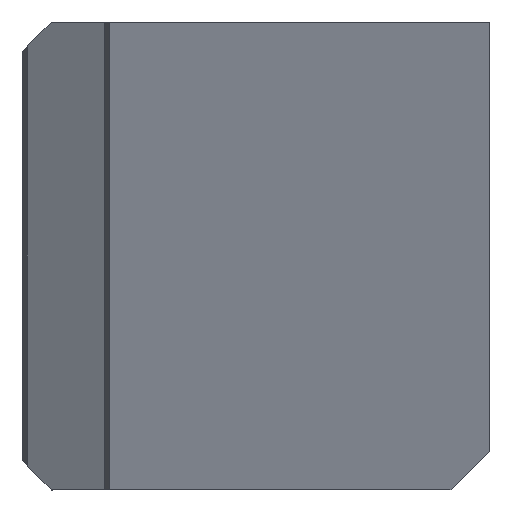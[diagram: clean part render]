
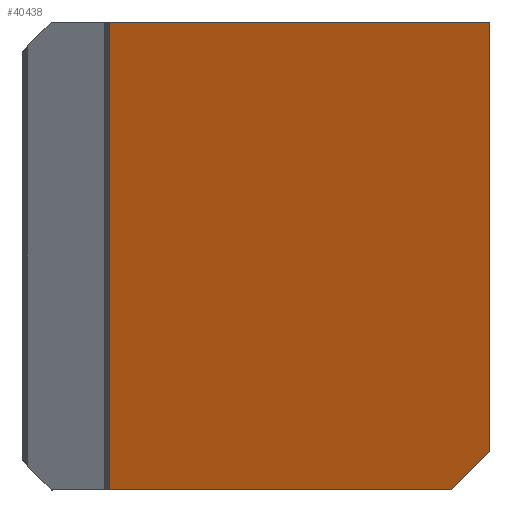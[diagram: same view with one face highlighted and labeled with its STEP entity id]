
A CAD part, left-side view. The second image highlights one B-rep face of the part: STEP entity #40438.
In plain terms, the highlighted planar face has unit normal (-0.943, 0, -0.334).
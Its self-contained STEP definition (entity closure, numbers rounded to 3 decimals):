
#492 = CARTESIAN_POINT ( 'NONE',  ( 0., 24., 0. ) ) ;
#919 = DIRECTION ( 'NONE',  ( -0.942, 0., -0.334 ) ) ;
#1106 = VECTOR ( 'NONE', #72730, 1000. ) ;
#6916 = DIRECTION ( 'NONE',  ( 0., -1., 0. ) ) ;
#8937 = EDGE_LOOP ( 'NONE', ( #74145, #29989, #65186, #74253, #39417 ) ) ;
#10180 = CARTESIAN_POINT ( 'NONE',  ( 8.512, 0., -24. ) ) ;
#10226 = DIRECTION ( 'NONE',  ( -0.243, -0.686, 0.686 ) ) ;
#13474 = AXIS2_PLACEMENT_3D ( 'NONE', #49924, #919, #37498 ) ;
#25840 = CARTESIAN_POINT ( 'NONE',  ( 8.512, 19.5, -24. ) ) ;
#29989 = ORIENTED_EDGE ( 'NONE', *, *, #70328, .T. ) ;
#30882 = CARTESIAN_POINT ( 'NONE',  ( 8.512, 24., -24. ) ) ;
#34126 = VERTEX_POINT ( 'NONE', #59926 ) ;
#35505 = CARTESIAN_POINT ( 'NONE',  ( 3.671, -11.651, -10.349 ) ) ;
#35600 = VECTOR ( 'NONE', #66241, 1000. ) ;
#36712 = LINE ( 'NONE', #37099, #61348 ) ;
#37094 = PLANE ( 'NONE',  #13474 ) ;
#37099 = CARTESIAN_POINT ( 'NONE',  ( 0., 19.5, 0. ) ) ;
#37498 = DIRECTION ( 'NONE',  ( -0.334, 0., 0.942 ) ) ;
#39417 = ORIENTED_EDGE ( 'NONE', *, *, #70937, .F. ) ;
#40438 = ADVANCED_FACE ( 'NONE', ( #44287 ), #37094, .T. ) ;
#44287 = FACE_OUTER_BOUND ( 'NONE', #8937, .T. ) ;
#48532 = EDGE_CURVE ( 'NONE', #50846, #34126, #66428, .T. ) ;
#49924 = CARTESIAN_POINT ( 'NONE',  ( 0., 0., 0. ) ) ;
#50846 = VERTEX_POINT ( 'NONE', #63939 ) ;
#54180 = LINE ( 'NONE', #30882, #35600 ) ;
#54651 = EDGE_CURVE ( 'NONE', #34126, #64716, #55007, .T. ) ;
#54662 = VECTOR ( 'NONE', #6916, 1000. ) ;
#55007 = LINE ( 'NONE', #10180, #1106 ) ;
#55575 = DIRECTION ( 'NONE',  ( -0.334, 0., 0.942 ) ) ;
#59926 = CARTESIAN_POINT ( 'NONE',  ( 0., 0., 0. ) ) ;
#61348 = VECTOR ( 'NONE', #55575, 1000. ) ;
#63939 = CARTESIAN_POINT ( 'NONE',  ( 0., 19.5, 0. ) ) ;
#64699 = VERTEX_POINT ( 'NONE', #25840 ) ;
#64716 = VERTEX_POINT ( 'NONE', #77267 ) ;
#65186 = ORIENTED_EDGE ( 'NONE', *, *, #54651, .F. ) ;
#66241 = DIRECTION ( 'NONE',  ( 0., 1., 0. ) ) ;
#66428 = LINE ( 'NONE', #492, #54662 ) ;
#70098 = EDGE_CURVE ( 'NONE', #71695, #64699, #54180, .T. ) ;
#70226 = LINE ( 'NONE', #35505, #72840 ) ;
#70328 = EDGE_CURVE ( 'NONE', #71695, #64716, #70226, .T. ) ;
#70937 = EDGE_CURVE ( 'NONE', #64699, #50846, #36712, .T. ) ;
#71695 = VERTEX_POINT ( 'NONE', #79547 ) ;
#72730 = DIRECTION ( 'NONE',  ( 0.334, 0., -0.942 ) ) ;
#72840 = VECTOR ( 'NONE', #10226, 1000. ) ;
#74145 = ORIENTED_EDGE ( 'NONE', *, *, #70098, .F. ) ;
#74253 = ORIENTED_EDGE ( 'NONE', *, *, #48532, .F. ) ;
#77267 = CARTESIAN_POINT ( 'NONE',  ( 7.803, 0., -22. ) ) ;
#79547 = CARTESIAN_POINT ( 'NONE',  ( 8.512, 2., -24. ) ) ;
